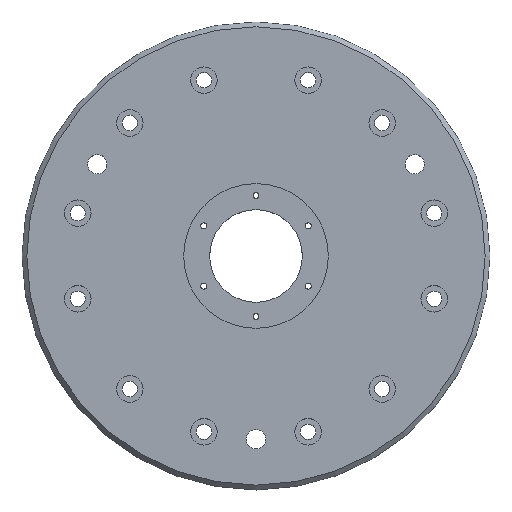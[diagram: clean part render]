
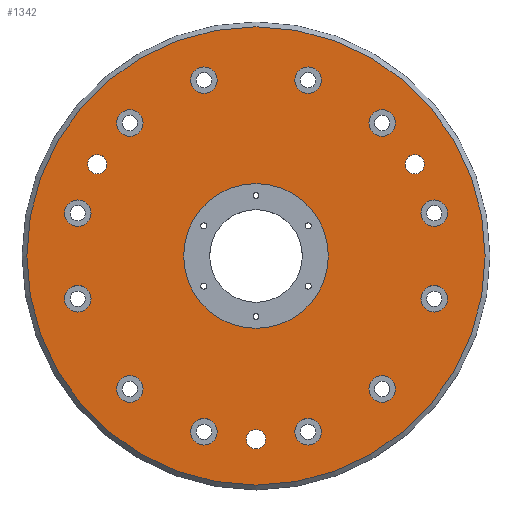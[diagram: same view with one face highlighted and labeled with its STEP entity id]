
A CAD part, top view. The second image highlights one B-rep face of the part: STEP entity #1342.
In plain terms, the highlighted planar face has unit normal (0, 0, 1).
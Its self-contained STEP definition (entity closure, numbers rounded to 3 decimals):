
#23=FACE_BOUND('',#271,.T.);
#24=FACE_BOUND('',#272,.T.);
#25=FACE_BOUND('',#273,.T.);
#26=FACE_BOUND('',#274,.T.);
#27=FACE_BOUND('',#275,.T.);
#28=FACE_BOUND('',#276,.T.);
#29=FACE_BOUND('',#277,.T.);
#30=FACE_BOUND('',#278,.T.);
#31=FACE_BOUND('',#279,.T.);
#32=FACE_BOUND('',#280,.T.);
#33=FACE_BOUND('',#281,.T.);
#34=FACE_BOUND('',#282,.T.);
#35=FACE_BOUND('',#283,.T.);
#36=FACE_BOUND('',#284,.T.);
#37=FACE_BOUND('',#285,.T.);
#38=FACE_BOUND('',#286,.T.);
#77=PLANE('',#1515);
#179=FACE_OUTER_BOUND('',#270,.T.);
#270=EDGE_LOOP('',(#1095));
#271=EDGE_LOOP('',(#1096));
#272=EDGE_LOOP('',(#1097));
#273=EDGE_LOOP('',(#1098));
#274=EDGE_LOOP('',(#1099));
#275=EDGE_LOOP('',(#1100));
#276=EDGE_LOOP('',(#1101));
#277=EDGE_LOOP('',(#1102));
#278=EDGE_LOOP('',(#1103));
#279=EDGE_LOOP('',(#1104));
#280=EDGE_LOOP('',(#1105));
#281=EDGE_LOOP('',(#1106));
#282=EDGE_LOOP('',(#1107));
#283=EDGE_LOOP('',(#1108));
#284=EDGE_LOOP('',(#1109));
#285=EDGE_LOOP('',(#1110));
#286=EDGE_LOOP('',(#1111));
#562=CIRCLE('',#1504,30.);
#565=CIRCLE('',#1509,95.);
#570=CIRCLE('',#1516,4.);
#571=CIRCLE('',#1517,4.);
#572=CIRCLE('',#1518,4.);
#573=CIRCLE('',#1519,5.5);
#574=CIRCLE('',#1520,5.5);
#575=CIRCLE('',#1521,5.5);
#576=CIRCLE('',#1522,5.5);
#577=CIRCLE('',#1523,5.5);
#578=CIRCLE('',#1524,5.5);
#579=CIRCLE('',#1525,5.5);
#580=CIRCLE('',#1526,5.5);
#581=CIRCLE('',#1527,5.5);
#582=CIRCLE('',#1528,5.5);
#583=CIRCLE('',#1529,5.5);
#584=CIRCLE('',#1530,5.5);
#681=VERTEX_POINT('',#2271);
#684=VERTEX_POINT('',#2280);
#689=VERTEX_POINT('',#2294);
#690=VERTEX_POINT('',#2296);
#691=VERTEX_POINT('',#2298);
#692=VERTEX_POINT('',#2300);
#693=VERTEX_POINT('',#2302);
#694=VERTEX_POINT('',#2304);
#695=VERTEX_POINT('',#2306);
#696=VERTEX_POINT('',#2308);
#697=VERTEX_POINT('',#2310);
#698=VERTEX_POINT('',#2312);
#699=VERTEX_POINT('',#2314);
#700=VERTEX_POINT('',#2316);
#701=VERTEX_POINT('',#2318);
#702=VERTEX_POINT('',#2320);
#703=VERTEX_POINT('',#2322);
#831=EDGE_CURVE('',#681,#681,#562,.T.);
#835=EDGE_CURVE('',#684,#684,#565,.T.);
#842=EDGE_CURVE('',#689,#689,#570,.T.);
#843=EDGE_CURVE('',#690,#690,#571,.T.);
#844=EDGE_CURVE('',#691,#691,#572,.T.);
#845=EDGE_CURVE('',#692,#692,#573,.T.);
#846=EDGE_CURVE('',#693,#693,#574,.T.);
#847=EDGE_CURVE('',#694,#694,#575,.T.);
#848=EDGE_CURVE('',#695,#695,#576,.T.);
#849=EDGE_CURVE('',#696,#696,#577,.T.);
#850=EDGE_CURVE('',#697,#697,#578,.T.);
#851=EDGE_CURVE('',#698,#698,#579,.T.);
#852=EDGE_CURVE('',#699,#699,#580,.T.);
#853=EDGE_CURVE('',#700,#700,#581,.T.);
#854=EDGE_CURVE('',#701,#701,#582,.T.);
#855=EDGE_CURVE('',#702,#702,#583,.T.);
#856=EDGE_CURVE('',#703,#703,#584,.T.);
#1095=ORIENTED_EDGE('',*,*,#835,.F.);
#1096=ORIENTED_EDGE('',*,*,#831,.T.);
#1097=ORIENTED_EDGE('',*,*,#842,.T.);
#1098=ORIENTED_EDGE('',*,*,#843,.T.);
#1099=ORIENTED_EDGE('',*,*,#844,.T.);
#1100=ORIENTED_EDGE('',*,*,#845,.T.);
#1101=ORIENTED_EDGE('',*,*,#846,.T.);
#1102=ORIENTED_EDGE('',*,*,#847,.T.);
#1103=ORIENTED_EDGE('',*,*,#848,.T.);
#1104=ORIENTED_EDGE('',*,*,#849,.T.);
#1105=ORIENTED_EDGE('',*,*,#850,.T.);
#1106=ORIENTED_EDGE('',*,*,#851,.T.);
#1107=ORIENTED_EDGE('',*,*,#852,.T.);
#1108=ORIENTED_EDGE('',*,*,#853,.T.);
#1109=ORIENTED_EDGE('',*,*,#854,.T.);
#1110=ORIENTED_EDGE('',*,*,#855,.T.);
#1111=ORIENTED_EDGE('',*,*,#856,.T.);
#1342=ADVANCED_FACE('',(#179,#23,#24,#25,#26,#27,#28,#29,#30,#31,#32,#33,
#34,#35,#36,#37,#38),#77,.T.);
#1504=AXIS2_PLACEMENT_3D('',#2272,#1835,#1836);
#1509=AXIS2_PLACEMENT_3D('',#2281,#1846,#1847);
#1515=AXIS2_PLACEMENT_3D('',#2293,#1860,#1861);
#1516=AXIS2_PLACEMENT_3D('',#2295,#1862,#1863);
#1517=AXIS2_PLACEMENT_3D('',#2297,#1864,#1865);
#1518=AXIS2_PLACEMENT_3D('',#2299,#1866,#1867);
#1519=AXIS2_PLACEMENT_3D('',#2301,#1868,#1869);
#1520=AXIS2_PLACEMENT_3D('',#2303,#1870,#1871);
#1521=AXIS2_PLACEMENT_3D('',#2305,#1872,#1873);
#1522=AXIS2_PLACEMENT_3D('',#2307,#1874,#1875);
#1523=AXIS2_PLACEMENT_3D('',#2309,#1876,#1877);
#1524=AXIS2_PLACEMENT_3D('',#2311,#1878,#1879);
#1525=AXIS2_PLACEMENT_3D('',#2313,#1880,#1881);
#1526=AXIS2_PLACEMENT_3D('',#2315,#1882,#1883);
#1527=AXIS2_PLACEMENT_3D('',#2317,#1884,#1885);
#1528=AXIS2_PLACEMENT_3D('',#2319,#1886,#1887);
#1529=AXIS2_PLACEMENT_3D('',#2321,#1888,#1889);
#1530=AXIS2_PLACEMENT_3D('',#2323,#1890,#1891);
#1835=DIRECTION('center_axis',(0.,0.,-1.));
#1836=DIRECTION('ref_axis',(1.,0.,0.));
#1846=DIRECTION('center_axis',(0.,0.,-1.));
#1847=DIRECTION('ref_axis',(-1.,0.,0.));
#1860=DIRECTION('center_axis',(0.,0.,1.));
#1861=DIRECTION('ref_axis',(1.,0.,0.));
#1862=DIRECTION('center_axis',(0.,0.,-1.));
#1863=DIRECTION('ref_axis',(1.,0.,0.));
#1864=DIRECTION('center_axis',(0.,0.,-1.));
#1865=DIRECTION('ref_axis',(1.,0.,0.));
#1866=DIRECTION('center_axis',(0.,0.,-1.));
#1867=DIRECTION('ref_axis',(1.,0.,0.));
#1868=DIRECTION('center_axis',(0.,0.,-1.));
#1869=DIRECTION('ref_axis',(1.,0.,0.));
#1870=DIRECTION('center_axis',(0.,0.,-1.));
#1871=DIRECTION('ref_axis',(1.,0.,0.));
#1872=DIRECTION('center_axis',(0.,0.,-1.));
#1873=DIRECTION('ref_axis',(1.,0.,0.));
#1874=DIRECTION('center_axis',(0.,0.,-1.));
#1875=DIRECTION('ref_axis',(1.,0.,0.));
#1876=DIRECTION('center_axis',(0.,0.,-1.));
#1877=DIRECTION('ref_axis',(1.,0.,0.));
#1878=DIRECTION('center_axis',(0.,0.,-1.));
#1879=DIRECTION('ref_axis',(1.,0.,0.));
#1880=DIRECTION('center_axis',(0.,0.,-1.));
#1881=DIRECTION('ref_axis',(1.,0.,0.));
#1882=DIRECTION('center_axis',(0.,0.,-1.));
#1883=DIRECTION('ref_axis',(1.,0.,0.));
#1884=DIRECTION('center_axis',(0.,0.,-1.));
#1885=DIRECTION('ref_axis',(1.,0.,0.));
#1886=DIRECTION('center_axis',(0.,0.,-1.));
#1887=DIRECTION('ref_axis',(1.,0.,0.));
#1888=DIRECTION('center_axis',(0.,0.,-1.));
#1889=DIRECTION('ref_axis',(1.,0.,0.));
#1890=DIRECTION('center_axis',(0.,0.,-1.));
#1891=DIRECTION('ref_axis',(1.,0.,0.));
#2271=CARTESIAN_POINT('',(-30.,0.,0.));
#2272=CARTESIAN_POINT('Origin',(0.,0.,0.));
#2280=CARTESIAN_POINT('',(95.,0.,0.));
#2281=CARTESIAN_POINT('Origin',(0.,0.,0.));
#2293=CARTESIAN_POINT('Origin',(0.,0.,0.));
#2294=CARTESIAN_POINT('',(-69.818,38.,0.));
#2295=CARTESIAN_POINT('Origin',(-65.818,38.,0.));
#2296=CARTESIAN_POINT('',(61.818,38.,0.));
#2297=CARTESIAN_POINT('Origin',(65.818,38.,0.));
#2298=CARTESIAN_POINT('',(-4.,-76.,0.));
#2299=CARTESIAN_POINT('Origin',(0.,-76.,0.));
#2300=CARTESIAN_POINT('',(-57.815,55.128,0.));
#2301=CARTESIAN_POINT('Origin',(-52.315,55.128,0.));
#2302=CARTESIAN_POINT('',(-79.4,-17.742,0.));
#2303=CARTESIAN_POINT('Origin',(-73.9,-17.742,0.));
#2304=CARTESIAN_POINT('',(-27.085,-72.87,0.));
#2305=CARTESIAN_POINT('Origin',(-21.585,-72.87,0.));
#2306=CARTESIAN_POINT('',(46.815,-55.128,0.));
#2307=CARTESIAN_POINT('Origin',(52.315,-55.128,0.));
#2308=CARTESIAN_POINT('',(68.4,17.742,0.));
#2309=CARTESIAN_POINT('Origin',(73.9,17.742,0.));
#2310=CARTESIAN_POINT('',(16.085,72.87,0.));
#2311=CARTESIAN_POINT('Origin',(21.585,72.87,0.));
#2312=CARTESIAN_POINT('',(-27.085,72.87,0.));
#2313=CARTESIAN_POINT('Origin',(-21.585,72.87,0.));
#2314=CARTESIAN_POINT('',(46.815,55.128,0.));
#2315=CARTESIAN_POINT('Origin',(52.315,55.128,0.));
#2316=CARTESIAN_POINT('',(68.4,-17.742,0.));
#2317=CARTESIAN_POINT('Origin',(73.9,-17.742,0.));
#2318=CARTESIAN_POINT('',(16.085,-72.87,0.));
#2319=CARTESIAN_POINT('Origin',(21.585,-72.87,0.));
#2320=CARTESIAN_POINT('',(-57.815,-55.128,0.));
#2321=CARTESIAN_POINT('Origin',(-52.315,-55.128,0.));
#2322=CARTESIAN_POINT('',(-79.4,17.742,0.));
#2323=CARTESIAN_POINT('Origin',(-73.9,17.742,0.));
